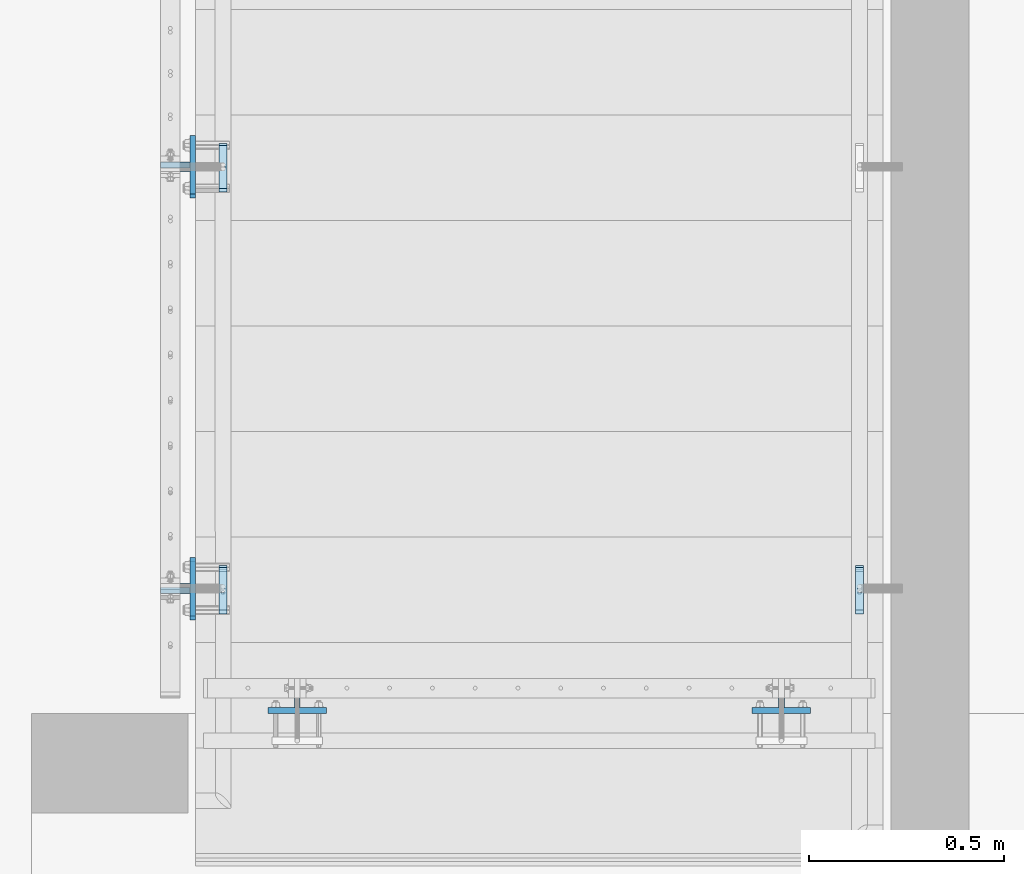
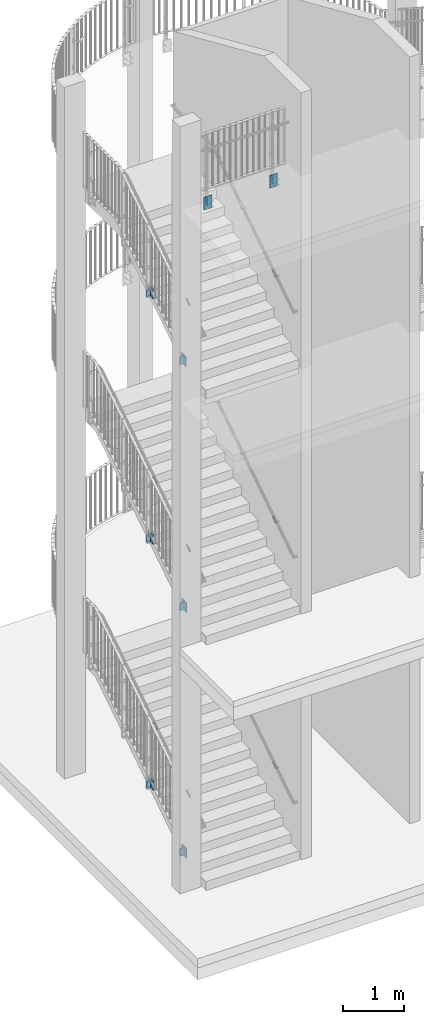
# One storey, part 108 of 296: 24 plates, 56 openings.
"""IFC2X3 building model written with IfcOpenShell, lengths in millimetres."""

from ifc_helpers import new_model, entity, si_unit, converted_unit, frame, frame_2d, origin, origin_with_axes, origin_2d_with_axis, place, context, project, spatial, polyline, circle, outline, extrude, material, layer, layer_set, element, save


model = new_model("IFC2X3")

# Units and contexts
model_context = context("Model", 3, precision=1e-09, world=origin_with_axes())
ifc_project = project(units=[si_unit("LENGTHUNIT", "METRE", prefix="MILLI"), si_unit("AREAUNIT", "SQUARE_METRE"), si_unit("VOLUMEUNIT", "CUBIC_METRE"), converted_unit("PLANEANGLEUNIT", "DEGREE", entity("IfcPlaneAngleMeasure", 0.01745329), si_unit("PLANEANGLEUNIT", "RADIAN"), dimensions=[0, 0, 0, 0, 0, 0, 0])], contexts=[model_context])

# Site, building, storey
site_placement = place(None, origin_with_axes())
site = spatial("IfcSite", under=ifc_project, at=site_placement, Name="TZD-S?d | Treppenhausgel?nder", CompositionType="ELEMENT")
building_placement = place(site_placement, origin_with_axes())
building = spatial("IfcBuilding", under=site, at=building_placement, Name="Struktur 1", CompositionType="ELEMENT")
storey_placement = place(building_placement, origin_with_axes())
storey = spatial("IfcBuildingStorey", under=building, at=storey_placement, Name="Default Storey", CompositionType="ELEMENT", Elevation=0.0)

# Plate, openings
ifc_material = material(Name="S235JR")
ifc_layer_1 = layer(ifc_material, 15.0)
ifc_layer_set_1 = layer_set([ifc_layer_1], Name="S235JR")
plate_1_placement = place(None, frame((1512.501414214, -3722.501, 13400.001), z_axis=(-1.0, 0.0, 0.0), x_axis=(0.0, -1.0, 0.0)))
plate_1 = element("IfcPlate", 1, at=plate_1_placement, inside=storey, material=ifc_layer_set_1, Name="Girder", ObjectType="Girder", context=model_context, shape_type="SweptSolid", body=[
    extrude(outline(polyline([(-37.5, -75.0), (37.5, -75.0), (37.5, 75.0), (-37.5, 75.0), (-37.5, -75.0)])), origin_with_axes(), (0.0, 0.0, -1.0), 15.0),
])
opening_1_placement = place(plate_1_placement, frame((-19.501, 50.0, 0.5), z_axis=(0.0, 0.0, 1.0), x_axis=(1.0, 0.0, 0.0)))
element("IfcOpeningElement", 2, at=opening_1_placement, cuts=plate_1, ObjectType="Opening", context=model_context, shape_type="SweptSolid", body=[
    extrude(circle(Radius=7.001, at=frame_2d((7.001, 0.0), x_axis=(1.0, 0.0))), origin(), (0.0, 0.0, -1.0), 16.0),
])
opening_2_placement = place(plate_1_placement, frame((-19.501, -50.0, 0.5), z_axis=(0.0, 0.0, 1.0), x_axis=(1.0, 0.0, 0.0)))
element("IfcOpeningElement", 3, at=opening_2_placement, cuts=plate_1, ObjectType="Opening", context=model_context, shape_type="SweptSolid", body=[
    extrude(circle(Radius=7.001, at=frame_2d((7.001, 0.0), x_axis=(1.0, 0.0))), origin(), (0.0, 0.0, -1.0), 16.0),
])

plate_2_placement = place(None, frame((1520.001414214, -3775.001, 13400.001), z_axis=(0.0, -1.0, 0.0), x_axis=(1.0, 0.0, 0.0)))
plate_2 = element("IfcPlate", 4, at=plate_2_placement, inside=storey, material=ifc_layer_set_1, Name="Girder", ObjectType="Girder", context=model_context, shape_type="SweptSolid", body=[
    extrude(outline(polyline([(-75.0, -125.0), (75.0, -125.0), (75.0, 125.0), (-75.0, 125.0), (-75.0, -125.0)])), origin_with_axes(), (0.0, 0.0, -1.0), 15.0),
])
opening_3_placement = place(plate_2_placement, frame((47.999, 55.0, 0.5), z_axis=(0.0, 0.0, 1.0), x_axis=(1.0, 0.0, 0.0)))
element("IfcOpeningElement", 5, at=opening_3_placement, cuts=plate_2, ObjectType="Opening", context=model_context, shape_type="SweptSolid", body=[
    extrude(circle(Radius=7.001, at=frame_2d((7.001, 0.0), x_axis=(1.0, 0.0))), origin(), (0.0, 0.0, -1.0), 16.0),
])
opening_4_placement = place(plate_2_placement, frame((-62.001, 55.0, 0.5), z_axis=(0.0, 0.0, 1.0), x_axis=(1.0, 0.0, 0.0)))
element("IfcOpeningElement", 6, at=opening_4_placement, cuts=plate_2, ObjectType="Opening", context=model_context, shape_type="SweptSolid", body=[
    extrude(circle(Radius=7.001, at=frame_2d((7.001, 0.0), x_axis=(1.0, 0.0))), origin(), (0.0, 0.0, -1.0), 16.0),
])
opening_5_placement = place(plate_2_placement, frame((47.999, -55.0, 0.5), z_axis=(0.0, 0.0, 1.0), x_axis=(1.0, 0.0, 0.0)))
element("IfcOpeningElement", 7, at=opening_5_placement, cuts=plate_2, ObjectType="Opening", context=model_context, shape_type="SweptSolid", body=[
    extrude(circle(Radius=7.001, at=frame_2d((7.001, 0.0), x_axis=(1.0, 0.0))), origin(), (0.0, 0.0, -1.0), 16.0),
])
opening_6_placement = place(plate_2_placement, frame((-62.001, -55.0, 0.5), z_axis=(0.0, 0.0, 1.0), x_axis=(1.0, 0.0, 0.0)))
element("IfcOpeningElement", 8, at=opening_6_placement, cuts=plate_2, ObjectType="Opening", context=model_context, shape_type="SweptSolid", body=[
    extrude(circle(Radius=7.001, at=frame_2d((7.001, 0.0), x_axis=(1.0, 0.0))), origin(), (0.0, 0.0, -1.0), 16.0),
])

plate_3_placement = place(None, frame((287.499999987, -3722.501, 13400.001), z_axis=(-1.0, 0.0, 0.0), x_axis=(0.0, -1.0, 0.0)))
plate_3 = element("IfcPlate", 9, at=plate_3_placement, inside=storey, material=ifc_layer_set_1, Name="Girder", ObjectType="Girder", context=model_context, shape_type="SweptSolid", body=[
    extrude(outline(polyline([(-37.5, -75.0), (37.5, -75.0), (37.5, 75.0), (-37.5, 75.0), (-37.5, -75.0)])), origin_with_axes(), (0.0, 0.0, 1.0), 15.0),
])
opening_7_placement = place(plate_3_placement, frame((-12.5, 0.0, -0.5), z_axis=(0.0, 0.0, 1.0), x_axis=(1.0, 0.0, 0.0)))
element("IfcOpeningElement", 10, at=opening_7_placement, cuts=plate_3, ObjectType="Opening", context=model_context, shape_type="SweptSolid", body=[
    extrude(circle(Radius=7.001, at=frame_2d((0.0, 50.0), x_axis=(1.0, 0.0))), origin(), (0.0, 0.0, 1.0), 16.0),
])
opening_8_placement = place(plate_3_placement, frame((-12.5, 0.0, -0.5), z_axis=(0.0, 0.0, 1.0), x_axis=(1.0, 0.0, 0.0)))
element("IfcOpeningElement", 11, at=opening_8_placement, cuts=plate_3, ObjectType="Opening", context=model_context, shape_type="SweptSolid", body=[
    extrude(circle(Radius=7.001, at=frame_2d((0.0, -50.0), x_axis=(1.0, 0.0))), origin(), (0.0, 0.0, 1.0), 16.0),
])

plate_4_placement = place(None, frame((279.999999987, -3775.001, 13400.001), z_axis=(0.0, 1.0, 0.0), x_axis=(-1.0, 0.0, 0.0)))
plate_4 = element("IfcPlate", 12, at=plate_4_placement, inside=storey, material=ifc_layer_set_1, Name="Girder", ObjectType="Girder", context=model_context, shape_type="SweptSolid", body=[
    extrude(outline(polyline([(-75.0, -125.0), (75.0, -125.0), (75.0, 125.0), (-75.0, 125.0), (-75.0, -125.0)])), origin_with_axes(), (0.0, 0.0, 1.0), 15.0),
])
opening_9_placement = place(plate_4_placement, frame((0.0, 0.0, -0.5), z_axis=(0.0, 0.0, 1.0), x_axis=(1.0, 0.0, 0.0)))
element("IfcOpeningElement", 13, at=opening_9_placement, cuts=plate_4, ObjectType="Opening", context=model_context, shape_type="SweptSolid", body=[
    extrude(circle(Radius=7.001, at=frame_2d((55.0, 55.0), x_axis=(1.0, 0.0))), origin(), (0.0, 0.0, 1.0), 16.0),
])
opening_10_placement = place(plate_4_placement, frame((0.0, 0.0, -0.5), z_axis=(0.0, 0.0, 1.0), x_axis=(1.0, 0.0, 0.0)))
element("IfcOpeningElement", 14, at=opening_10_placement, cuts=plate_4, ObjectType="Opening", context=model_context, shape_type="SweptSolid", body=[
    extrude(circle(Radius=7.001, at=frame_2d((-55.0, 55.0), x_axis=(1.0, 0.0))), origin(), (0.0, 0.0, 1.0), 16.0),
])
opening_11_placement = place(plate_4_placement, frame((0.0, 0.0, -0.5), z_axis=(0.0, 0.0, 1.0), x_axis=(1.0, 0.0, 0.0)))
element("IfcOpeningElement", 15, at=opening_11_placement, cuts=plate_4, ObjectType="Opening", context=model_context, shape_type="SweptSolid", body=[
    extrude(circle(Radius=7.001, at=frame_2d((55.0, -55.0), x_axis=(1.0, 0.0))), origin(), (0.0, 0.0, 1.0), 16.0),
])
opening_12_placement = place(plate_4_placement, frame((0.0, 0.0, -0.5), z_axis=(0.0, 0.0, 1.0), x_axis=(1.0, 0.0, 0.0)))
element("IfcOpeningElement", 16, at=opening_12_placement, cuts=plate_4, ObjectType="Opening", context=model_context, shape_type="SweptSolid", body=[
    extrude(circle(Radius=7.001, at=frame_2d((-55.0, -55.0), x_axis=(1.0, 0.0))), origin(), (0.0, 0.0, 1.0), 16.0),
])

# Plate, opening
ifc_layer_2 = layer(ifc_material, 10.0)
ifc_layer_set_2 = layer_set([ifc_layer_2], Name="S235JR")
plate_5_placement = place(None, frame((1720.0, -3460.0, 6382.772283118), z_axis=(0.0, 0.542183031, -0.840260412), x_axis=(0.0, -0.840260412, -0.542183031)))
plate_5 = element("IfcPlate", 17, at=plate_5_placement, inside=storey, material=ifc_layer_set_2, Name="Girder", ObjectType="Girder", context=model_context, shape_type="SweptSolid", body=[
    extrude(outline(polyline([(-65.0, -10.0), (65.0, -10.0), (65.0, 10.0), (-65.0, 10.0), (-65.0, -10.0)])), origin_with_axes(), (0.0, 0.0, -1.0), 10.0),
])
opening_13_placement = place(plate_5_placement, frame((-8e-09, -5.000999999, 0.5), z_axis=(0.0, 0.0, 1.0), x_axis=(1.0, 0.0, 0.0)))
element("IfcOpeningElement", 18, at=opening_13_placement, cuts=plate_5, ObjectType="Opening", context=model_context, shape_type="SweptSolid", body=[
    extrude(circle(Radius=5.001, at=frame_2d((0.0, 5.001), x_axis=(1.0, 0.0))), origin(), (0.0, 0.0, -1.0), 11.0),
])

plate_6_placement = place(None, frame((1720.0, -3460.0, 1482.538848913), z_axis=(0.0, 0.544258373, -0.83891765), x_axis=(0.0, -0.83891765, -0.544258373)))
plate_6 = element("IfcPlate", 19, at=plate_6_placement, inside=storey, material=ifc_layer_set_2, Name="Girder", ObjectType="Girder", context=model_context, shape_type="SweptSolid", body=[
    extrude(outline(polyline([(-65.0, -10.0), (65.0, -10.0), (65.0, 10.0), (-65.0, 10.0), (-65.0, -10.0)])), origin_with_axes(), (0.0, 0.0, -1.0), 10.0),
])
opening_14_placement = place(plate_6_placement, frame((-7e-09, -5.001, 0.5), z_axis=(0.0, 0.0, 1.0), x_axis=(1.0, 0.0, 0.0)))
element("IfcOpeningElement", 20, at=opening_14_placement, cuts=plate_6, ObjectType="Opening", context=model_context, shape_type="SweptSolid", body=[
    extrude(circle(Radius=5.001, at=frame_2d((0.0, 5.001), x_axis=(1.0, 0.0))), origin(), (0.0, 0.0, -1.0), 11.0),
])

plate_7_placement = place(None, frame((1720.0, -3450.0, 11281.16675341), z_axis=(0.0, 0.543478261, -0.839423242), x_axis=(0.0, -0.839423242, -0.543478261)))
plate_7 = element("IfcPlate", 21, at=plate_7_placement, inside=storey, material=ifc_layer_set_2, Name="Girder", ObjectType="Girder", context=model_context, shape_type="SweptSolid", body=[
    extrude(outline(polyline([(-65.0, -10.0), (65.0, -10.0), (65.0, 10.0), (-65.0, 10.0), (-65.0, -10.0)])), origin_with_axes(), (0.0, 0.0, -1.0), 10.0),
])
opening_15_placement = place(plate_7_placement, frame((-1.8e-08, -5.000999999, 0.5), z_axis=(0.0, 0.0, 1.0), x_axis=(1.0, 0.0, 0.0)))
element("IfcOpeningElement", 22, at=opening_15_placement, cuts=plate_7, ObjectType="Opening", context=model_context, shape_type="SweptSolid", body=[
    extrude(circle(Radius=5.001, at=frame_2d((0.0, 5.001), x_axis=(1.0, 0.0))), origin(), (0.0, 0.0, -1.0), 11.0),
])

# Plate, openings
plate_8_placement = place(None, frame((20.0, -2370.0, 10864.999), z_axis=(-1.0, 0.0, 0.0), x_axis=(0.0, -1.0, 0.0)))
plate_8 = element("IfcPlate", 23, at=plate_8_placement, inside=storey, material=ifc_layer_set_1, Name="Girder", ObjectType="Girder", context=model_context, shape_type="SweptSolid", body=[
    extrude(outline(polyline([(-75.0, -100.0), (75.0, -100.0), (75.0, 100.0), (-75.0, 100.0), (-75.0, -100.0)])), origin_with_axes(), (0.0, 0.0, 1.0), 15.0),
])
opening_16_placement = place(plate_8_placement, frame((0.0, 0.0, -0.5), z_axis=(0.0, 0.0, 1.0), x_axis=(1.0, 0.0, 0.0)))
element("IfcOpeningElement", 24, at=opening_16_placement, cuts=plate_8, ObjectType="Opening", context=model_context, shape_type="SweptSolid", body=[
    extrude(circle(Radius=7.001, at=frame_2d((55.0, 55.0), x_axis=(1.0, 0.0))), origin(), (0.0, 0.0, 1.0), 16.0),
])
opening_17_placement = place(plate_8_placement, frame((0.0, 0.0, -0.5), z_axis=(0.0, 0.0, 1.0), x_axis=(1.0, 0.0, 0.0)))
element("IfcOpeningElement", 25, at=opening_17_placement, cuts=plate_8, ObjectType="Opening", context=model_context, shape_type="SweptSolid", body=[
    extrude(circle(Radius=7.001, at=frame_2d((-55.0, 55.0), x_axis=(1.0, 0.0))), origin(), (0.0, 0.0, 1.0), 16.0),
])
opening_18_placement = place(plate_8_placement, frame((0.0, 0.0, -0.5), z_axis=(0.0, 0.0, 1.0), x_axis=(1.0, 0.0, 0.0)))
element("IfcOpeningElement", 26, at=opening_18_placement, cuts=plate_8, ObjectType="Opening", context=model_context, shape_type="SweptSolid", body=[
    extrude(circle(Radius=7.001, at=frame_2d((55.0, -55.0), x_axis=(1.0, 0.0))), origin(), (0.0, 0.0, 1.0), 16.0),
])
opening_19_placement = place(plate_8_placement, frame((0.0, 0.0, -0.5), z_axis=(0.0, 0.0, 1.0), x_axis=(1.0, 0.0, 0.0)))
element("IfcOpeningElement", 27, at=opening_19_placement, cuts=plate_8, ObjectType="Opening", context=model_context, shape_type="SweptSolid", body=[
    extrude(circle(Radius=7.001, at=frame_2d((-55.0, -55.0), x_axis=(1.0, 0.0))), origin(), (0.0, 0.0, 1.0), 16.0),
])

plate_9_placement = place(None, frame((-32.5, -2362.5, 10864.999), z_axis=(0.0, -1.0, 0.0), x_axis=(1.0, 0.0, 0.0)))
plate_9 = element("IfcPlate", 28, at=plate_9_placement, inside=storey, material=ifc_layer_set_1, Name="Girder", ObjectType="Girder", context=model_context, shape_type="SweptSolid", body=[
    extrude(outline(polyline([(-37.5, -75.0), (37.5, -75.0), (37.5, 75.0), (-37.5, 75.0), (-37.5, -75.0)])), origin_with_axes(), (0.0, 0.0, 1.0), 15.0),
])
opening_20_placement = place(plate_9_placement, frame((-12.5, 0.0, -0.5), z_axis=(0.0, 0.0, 1.0), x_axis=(1.0, 0.0, 0.0)))
element("IfcOpeningElement", 29, at=opening_20_placement, cuts=plate_9, ObjectType="Opening", context=model_context, shape_type="SweptSolid", body=[
    extrude(circle(Radius=7.001, at=frame_2d((0.0, 50.0), x_axis=(1.0, 0.0))), origin(), (0.0, 0.0, 1.0), 16.0),
])
opening_21_placement = place(plate_9_placement, frame((-12.5, 0.0, -0.5), z_axis=(0.0, 0.0, 1.0), x_axis=(1.0, 0.0, 0.0)))
element("IfcOpeningElement", 30, at=opening_21_placement, cuts=plate_9, ObjectType="Opening", context=model_context, shape_type="SweptSolid", body=[
    extrude(circle(Radius=7.001, at=frame_2d((0.0, -50.0), x_axis=(1.0, 0.0))), origin(), (0.0, 0.0, 1.0), 16.0),
])

plate_10_placement = place(None, frame((20.0, -3450.0, 10164.999), z_axis=(-1.0, 0.0, 0.0), x_axis=(0.0, -1.0, 0.0)))
plate_10 = element("IfcPlate", 31, at=plate_10_placement, inside=storey, material=ifc_layer_set_1, Name="Girder", ObjectType="Girder", context=model_context, shape_type="SweptSolid", body=[
    extrude(outline(polyline([(-75.0, -100.0), (75.0, -100.0), (75.0, 100.0), (-75.0, 100.0), (-75.0, -100.0)])), origin_with_axes(), (0.0, 0.0, 1.0), 15.0),
])
opening_22_placement = place(plate_10_placement, frame((0.0, 0.0, -0.5), z_axis=(0.0, 0.0, 1.0), x_axis=(1.0, 0.0, 0.0)))
element("IfcOpeningElement", 32, at=opening_22_placement, cuts=plate_10, ObjectType="Opening", context=model_context, shape_type="SweptSolid", body=[
    extrude(circle(Radius=7.001, at=frame_2d((55.0, 55.0), x_axis=(1.0, 0.0))), origin(), (0.0, 0.0, 1.0), 16.0),
])
opening_23_placement = place(plate_10_placement, frame((0.0, 0.0, -0.5), z_axis=(0.0, 0.0, 1.0), x_axis=(1.0, 0.0, 0.0)))
element("IfcOpeningElement", 33, at=opening_23_placement, cuts=plate_10, ObjectType="Opening", context=model_context, shape_type="SweptSolid", body=[
    extrude(circle(Radius=7.001, at=frame_2d((-55.0, 55.0), x_axis=(1.0, 0.0))), origin(), (0.0, 0.0, 1.0), 16.0),
])
opening_24_placement = place(plate_10_placement, frame((0.0, 0.0, -0.5), z_axis=(0.0, 0.0, 1.0), x_axis=(1.0, 0.0, 0.0)))
element("IfcOpeningElement", 34, at=opening_24_placement, cuts=plate_10, ObjectType="Opening", context=model_context, shape_type="SweptSolid", body=[
    extrude(circle(Radius=7.001, at=frame_2d((55.0, -55.0), x_axis=(1.0, 0.0))), origin(), (0.0, 0.0, 1.0), 16.0),
])
opening_25_placement = place(plate_10_placement, frame((0.0, 0.0, -0.5), z_axis=(0.0, 0.0, 1.0), x_axis=(1.0, 0.0, 0.0)))
element("IfcOpeningElement", 35, at=opening_25_placement, cuts=plate_10, ObjectType="Opening", context=model_context, shape_type="SweptSolid", body=[
    extrude(circle(Radius=7.001, at=frame_2d((-55.0, -55.0), x_axis=(1.0, 0.0))), origin(), (0.0, 0.0, 1.0), 16.0),
])

plate_11_placement = place(None, frame((-32.5, -3442.5, 10164.999), z_axis=(0.0, -1.0, 0.0), x_axis=(1.0, 0.0, 0.0)))
plate_11 = element("IfcPlate", 36, at=plate_11_placement, inside=storey, material=ifc_layer_set_1, Name="Girder", ObjectType="Girder", context=model_context, shape_type="SweptSolid", body=[
    extrude(outline(polyline([(-37.5, -75.0), (37.5, -75.0), (37.5, 75.0), (-37.5, 75.0), (-37.5, -75.0)])), origin_with_axes(), (0.0, 0.0, 1.0), 15.0),
])
opening_26_placement = place(plate_11_placement, frame((-12.5, 0.0, -0.5), z_axis=(0.0, 0.0, 1.0), x_axis=(1.0, 0.0, 0.0)))
element("IfcOpeningElement", 37, at=opening_26_placement, cuts=plate_11, ObjectType="Opening", context=model_context, shape_type="SweptSolid", body=[
    extrude(circle(Radius=7.001, at=frame_2d((0.0, 50.0), x_axis=(1.0, 0.0))), origin(), (0.0, 0.0, 1.0), 16.0),
])
opening_27_placement = place(plate_11_placement, frame((-12.5, 0.0, -0.5), z_axis=(0.0, 0.0, 1.0), x_axis=(1.0, 0.0, 0.0)))
element("IfcOpeningElement", 38, at=opening_27_placement, cuts=plate_11, ObjectType="Opening", context=model_context, shape_type="SweptSolid", body=[
    extrude(circle(Radius=7.001, at=frame_2d((0.0, -50.0), x_axis=(1.0, 0.0))), origin(), (0.0, 0.0, 1.0), 16.0),
])

plate_12_placement = place(None, frame((20.0, -2370.0, 5964.999), z_axis=(-1.0, 0.0, 0.0), x_axis=(0.0, -1.0, 0.0)))
plate_12 = element("IfcPlate", 39, at=plate_12_placement, inside=storey, material=ifc_layer_set_1, Name="Girder", ObjectType="Girder", context=model_context, shape_type="SweptSolid", body=[
    extrude(outline(polyline([(-75.0, -100.0), (75.0, -100.0), (75.0, 100.0), (-75.0, 100.0), (-75.0, -100.0)])), origin_with_axes(), (0.0, 0.0, 1.0), 15.0),
])
opening_28_placement = place(plate_12_placement, frame((0.0, 0.0, -0.5), z_axis=(0.0, 0.0, 1.0), x_axis=(1.0, 0.0, 0.0)))
element("IfcOpeningElement", 40, at=opening_28_placement, cuts=plate_12, ObjectType="Opening", context=model_context, shape_type="SweptSolid", body=[
    extrude(circle(Radius=7.001, at=frame_2d((55.0, 55.0), x_axis=(1.0, 0.0))), origin(), (0.0, 0.0, 1.0), 16.0),
])
opening_29_placement = place(plate_12_placement, frame((0.0, 0.0, -0.5), z_axis=(0.0, 0.0, 1.0), x_axis=(1.0, 0.0, 0.0)))
element("IfcOpeningElement", 41, at=opening_29_placement, cuts=plate_12, ObjectType="Opening", context=model_context, shape_type="SweptSolid", body=[
    extrude(circle(Radius=7.001, at=frame_2d((-55.0, 55.0), x_axis=(1.0, 0.0))), origin(), (0.0, 0.0, 1.0), 16.0),
])
opening_30_placement = place(plate_12_placement, frame((0.0, 0.0, -0.5), z_axis=(0.0, 0.0, 1.0), x_axis=(1.0, 0.0, 0.0)))
element("IfcOpeningElement", 42, at=opening_30_placement, cuts=plate_12, ObjectType="Opening", context=model_context, shape_type="SweptSolid", body=[
    extrude(circle(Radius=7.001, at=frame_2d((55.0, -55.0), x_axis=(1.0, 0.0))), origin(), (0.0, 0.0, 1.0), 16.0),
])
opening_31_placement = place(plate_12_placement, frame((0.0, 0.0, -0.5), z_axis=(0.0, 0.0, 1.0), x_axis=(1.0, 0.0, 0.0)))
element("IfcOpeningElement", 43, at=opening_31_placement, cuts=plate_12, ObjectType="Opening", context=model_context, shape_type="SweptSolid", body=[
    extrude(circle(Radius=7.001, at=frame_2d((-55.0, -55.0), x_axis=(1.0, 0.0))), origin(), (0.0, 0.0, 1.0), 16.0),
])

plate_13_placement = place(None, frame((-32.5, -2362.5, 5964.999), z_axis=(0.0, -1.0, 0.0), x_axis=(1.0, 0.0, 0.0)))
plate_13 = element("IfcPlate", 44, at=plate_13_placement, inside=storey, material=ifc_layer_set_1, Name="Girder", ObjectType="Girder", context=model_context, shape_type="SweptSolid", body=[
    extrude(outline(polyline([(-37.5, -75.0), (37.5, -75.0), (37.5, 75.0), (-37.5, 75.0), (-37.5, -75.0)])), origin_with_axes(), (0.0, 0.0, 1.0), 15.0),
])
opening_32_placement = place(plate_13_placement, frame((-12.5, 0.0, -0.5), z_axis=(0.0, 0.0, 1.0), x_axis=(1.0, 0.0, 0.0)))
element("IfcOpeningElement", 45, at=opening_32_placement, cuts=plate_13, ObjectType="Opening", context=model_context, shape_type="SweptSolid", body=[
    extrude(circle(Radius=7.001, at=frame_2d((0.0, 50.0), x_axis=(1.0, 0.0))), origin(), (0.0, 0.0, 1.0), 16.0),
])
opening_33_placement = place(plate_13_placement, frame((-12.5, 0.0, -0.5), z_axis=(0.0, 0.0, 1.0), x_axis=(1.0, 0.0, 0.0)))
element("IfcOpeningElement", 46, at=opening_33_placement, cuts=plate_13, ObjectType="Opening", context=model_context, shape_type="SweptSolid", body=[
    extrude(circle(Radius=7.001, at=frame_2d((0.0, -50.0), x_axis=(1.0, 0.0))), origin(), (0.0, 0.0, 1.0), 16.0),
])

plate_14_placement = place(None, frame((20.0, -2380.0, 1064.999), z_axis=(-1.0, 0.0, 0.0), x_axis=(0.0, -1.0, 0.0)))
plate_14 = element("IfcPlate", 47, at=plate_14_placement, inside=storey, material=ifc_layer_set_1, Name="Girder", ObjectType="Girder", context=model_context, shape_type="SweptSolid", body=[
    extrude(outline(polyline([(-75.0, -100.0), (75.0, -100.0), (75.0, 100.0), (-75.0, 100.0), (-75.0, -100.0)])), origin_with_axes(), (0.0, 0.0, 1.0), 15.0),
])
opening_34_placement = place(plate_14_placement, frame((0.0, 0.0, -0.5), z_axis=(0.0, 0.0, 1.0), x_axis=(1.0, 0.0, 0.0)))
element("IfcOpeningElement", 48, at=opening_34_placement, cuts=plate_14, ObjectType="Opening", context=model_context, shape_type="SweptSolid", body=[
    extrude(circle(Radius=7.001, at=frame_2d((55.0, 55.0), x_axis=(1.0, 0.0))), origin(), (0.0, 0.0, 1.0), 16.0),
])
opening_35_placement = place(plate_14_placement, frame((0.0, 0.0, -0.5), z_axis=(0.0, 0.0, 1.0), x_axis=(1.0, 0.0, 0.0)))
element("IfcOpeningElement", 49, at=opening_35_placement, cuts=plate_14, ObjectType="Opening", context=model_context, shape_type="SweptSolid", body=[
    extrude(circle(Radius=7.001, at=frame_2d((-55.0, 55.0), x_axis=(1.0, 0.0))), origin(), (0.0, 0.0, 1.0), 16.0),
])
opening_36_placement = place(plate_14_placement, frame((0.0, 0.0, -0.5), z_axis=(0.0, 0.0, 1.0), x_axis=(1.0, 0.0, 0.0)))
element("IfcOpeningElement", 50, at=opening_36_placement, cuts=plate_14, ObjectType="Opening", context=model_context, shape_type="SweptSolid", body=[
    extrude(circle(Radius=7.001, at=frame_2d((55.0, -55.0), x_axis=(1.0, 0.0))), origin(), (0.0, 0.0, 1.0), 16.0),
])
opening_37_placement = place(plate_14_placement, frame((0.0, 0.0, -0.5), z_axis=(0.0, 0.0, 1.0), x_axis=(1.0, 0.0, 0.0)))
element("IfcOpeningElement", 51, at=opening_37_placement, cuts=plate_14, ObjectType="Opening", context=model_context, shape_type="SweptSolid", body=[
    extrude(circle(Radius=7.001, at=frame_2d((-55.0, -55.0), x_axis=(1.0, 0.0))), origin(), (0.0, 0.0, 1.0), 16.0),
])

plate_15_placement = place(None, frame((-32.5, -2372.5, 1064.999), z_axis=(0.0, -1.0, 0.0), x_axis=(1.0, 0.0, 0.0)))
plate_15 = element("IfcPlate", 52, at=plate_15_placement, inside=storey, material=ifc_layer_set_1, Name="Girder", ObjectType="Girder", context=model_context, shape_type="SweptSolid", body=[
    extrude(outline(polyline([(-37.5, -75.0), (37.5, -75.0), (37.5, 75.0), (-37.5, 75.0), (-37.5, -75.0)])), origin_with_axes(), (0.0, 0.0, 1.0), 15.0),
])
opening_38_placement = place(plate_15_placement, frame((-12.5, 0.0, -0.5), z_axis=(0.0, 0.0, 1.0), x_axis=(1.0, 0.0, 0.0)))
element("IfcOpeningElement", 53, at=opening_38_placement, cuts=plate_15, ObjectType="Opening", context=model_context, shape_type="SweptSolid", body=[
    extrude(circle(Radius=7.001, at=frame_2d((0.0, 50.0), x_axis=(1.0, 0.0))), origin(), (0.0, 0.0, 1.0), 16.0),
])
opening_39_placement = place(plate_15_placement, frame((-12.5, 0.0, -0.5), z_axis=(0.0, 0.0, 1.0), x_axis=(1.0, 0.0, 0.0)))
element("IfcOpeningElement", 54, at=opening_39_placement, cuts=plate_15, ObjectType="Opening", context=model_context, shape_type="SweptSolid", body=[
    extrude(circle(Radius=7.001, at=frame_2d((0.0, -50.0), x_axis=(1.0, 0.0))), origin(), (0.0, 0.0, 1.0), 16.0),
])

plate_16_placement = place(None, frame((20.0, -3460.0, 5265.001), z_axis=(-1.0, 0.0, 0.0), x_axis=(0.0, -1.0, 0.0)))
plate_16 = element("IfcPlate", 55, at=plate_16_placement, inside=storey, material=ifc_layer_set_1, Name="Girder", ObjectType="Girder", context=model_context, shape_type="SweptSolid", body=[
    extrude(outline(polyline([(-75.0, -100.0), (75.0, -100.0), (75.0, 100.0), (-75.0, 100.0), (-75.0, -100.0)])), origin_with_axes(), (0.0, 0.0, 1.0), 15.0),
])
opening_40_placement = place(plate_16_placement, frame((0.0, 0.0, -0.5), z_axis=(0.0, 0.0, 1.0), x_axis=(1.0, 0.0, 0.0)))
element("IfcOpeningElement", 56, at=opening_40_placement, cuts=plate_16, ObjectType="Opening", context=model_context, shape_type="SweptSolid", body=[
    extrude(circle(Radius=7.001, at=frame_2d((55.0, 55.0), x_axis=(1.0, 0.0))), origin(), (0.0, 0.0, 1.0), 16.0),
])
opening_41_placement = place(plate_16_placement, frame((0.0, 0.0, -0.5), z_axis=(0.0, 0.0, 1.0), x_axis=(1.0, 0.0, 0.0)))
element("IfcOpeningElement", 57, at=opening_41_placement, cuts=plate_16, ObjectType="Opening", context=model_context, shape_type="SweptSolid", body=[
    extrude(circle(Radius=7.001, at=frame_2d((-55.0, 55.0), x_axis=(1.0, 0.0))), origin(), (0.0, 0.0, 1.0), 16.0),
])
opening_42_placement = place(plate_16_placement, frame((0.0, 0.0, -0.5), z_axis=(0.0, 0.0, 1.0), x_axis=(1.0, 0.0, 0.0)))
element("IfcOpeningElement", 58, at=opening_42_placement, cuts=plate_16, ObjectType="Opening", context=model_context, shape_type="SweptSolid", body=[
    extrude(circle(Radius=7.001, at=frame_2d((55.0, -55.0), x_axis=(1.0, 0.0))), origin(), (0.0, 0.0, 1.0), 16.0),
])
opening_43_placement = place(plate_16_placement, frame((0.0, 0.0, -0.5), z_axis=(0.0, 0.0, 1.0), x_axis=(1.0, 0.0, 0.0)))
element("IfcOpeningElement", 59, at=opening_43_placement, cuts=plate_16, ObjectType="Opening", context=model_context, shape_type="SweptSolid", body=[
    extrude(circle(Radius=7.001, at=frame_2d((-55.0, -55.0), x_axis=(1.0, 0.0))), origin(), (0.0, 0.0, 1.0), 16.0),
])

plate_17_placement = place(None, frame((-32.5, -3452.5, 5265.001), z_axis=(0.0, -1.0, 0.0), x_axis=(1.0, 0.0, 0.0)))
plate_17 = element("IfcPlate", 60, at=plate_17_placement, inside=storey, material=ifc_layer_set_1, Name="Girder", ObjectType="Girder", context=model_context, shape_type="SweptSolid", body=[
    extrude(outline(polyline([(-37.5, -75.0), (37.5, -75.0), (37.5, 75.0), (-37.5, 75.0), (-37.5, -75.0)])), origin_with_axes(), (0.0, 0.0, 1.0), 15.0),
])
opening_44_placement = place(plate_17_placement, frame((-12.5, 0.0, -0.5), z_axis=(0.0, 0.0, 1.0), x_axis=(1.0, 0.0, 0.0)))
element("IfcOpeningElement", 61, at=opening_44_placement, cuts=plate_17, ObjectType="Opening", context=model_context, shape_type="SweptSolid", body=[
    extrude(circle(Radius=7.001, at=frame_2d((0.0, 50.0), x_axis=(1.0, 0.0))), origin(), (0.0, 0.0, 1.0), 16.0),
])
opening_45_placement = place(plate_17_placement, frame((-12.5, 0.0, -0.5), z_axis=(0.0, 0.0, 1.0), x_axis=(1.0, 0.0, 0.0)))
element("IfcOpeningElement", 62, at=opening_45_placement, cuts=plate_17, ObjectType="Opening", context=model_context, shape_type="SweptSolid", body=[
    extrude(circle(Radius=7.001, at=frame_2d((0.0, -50.0), x_axis=(1.0, 0.0))), origin(), (0.0, 0.0, 1.0), 16.0),
])

plate_18_placement = place(None, frame((20.0, -3460.0, 365.001), z_axis=(-1.0, 0.0, 0.0), x_axis=(0.0, -1.0, 0.0)))
plate_18 = element("IfcPlate", 63, at=plate_18_placement, inside=storey, material=ifc_layer_set_1, Name="Girder", ObjectType="Girder", context=model_context, shape_type="SweptSolid", body=[
    extrude(outline(polyline([(-75.0, -100.0), (75.0, -100.0), (75.0, 100.0), (-75.0, 100.0), (-75.0, -100.0)])), origin_with_axes(), (0.0, 0.0, 1.0), 15.0),
])
opening_46_placement = place(plate_18_placement, frame((0.0, 0.0, -0.5), z_axis=(0.0, 0.0, 1.0), x_axis=(1.0, 0.0, 0.0)))
element("IfcOpeningElement", 64, at=opening_46_placement, cuts=plate_18, ObjectType="Opening", context=model_context, shape_type="SweptSolid", body=[
    extrude(circle(Radius=7.001, at=frame_2d((55.0, 55.0), x_axis=(1.0, 0.0))), origin(), (0.0, 0.0, 1.0), 16.0),
])
opening_47_placement = place(plate_18_placement, frame((0.0, 0.0, -0.5), z_axis=(0.0, 0.0, 1.0), x_axis=(1.0, 0.0, 0.0)))
element("IfcOpeningElement", 65, at=opening_47_placement, cuts=plate_18, ObjectType="Opening", context=model_context, shape_type="SweptSolid", body=[
    extrude(circle(Radius=7.001, at=frame_2d((-55.0, 55.0), x_axis=(1.0, 0.0))), origin(), (0.0, 0.0, 1.0), 16.0),
])
opening_48_placement = place(plate_18_placement, frame((0.0, 0.0, -0.5), z_axis=(0.0, 0.0, 1.0), x_axis=(1.0, 0.0, 0.0)))
element("IfcOpeningElement", 66, at=opening_48_placement, cuts=plate_18, ObjectType="Opening", context=model_context, shape_type="SweptSolid", body=[
    extrude(circle(Radius=7.001, at=frame_2d((55.0, -55.0), x_axis=(1.0, 0.0))), origin(), (0.0, 0.0, 1.0), 16.0),
])
opening_49_placement = place(plate_18_placement, frame((0.0, 0.0, -0.5), z_axis=(0.0, 0.0, 1.0), x_axis=(1.0, 0.0, 0.0)))
element("IfcOpeningElement", 67, at=opening_49_placement, cuts=plate_18, ObjectType="Opening", context=model_context, shape_type="SweptSolid", body=[
    extrude(circle(Radius=7.001, at=frame_2d((-55.0, -55.0), x_axis=(1.0, 0.0))), origin(), (0.0, 0.0, 1.0), 16.0),
])

plate_19_placement = place(None, frame((-32.5, -3452.5, 365.001), z_axis=(0.0, -1.0, 0.0), x_axis=(1.0, 0.0, 0.0)))
plate_19 = element("IfcPlate", 68, at=plate_19_placement, inside=storey, material=ifc_layer_set_1, Name="Girder", ObjectType="Girder", context=model_context, shape_type="SweptSolid", body=[
    extrude(outline(polyline([(-37.5, -75.0), (37.5, -75.0), (37.5, 75.0), (-37.5, 75.0), (-37.5, -75.0)])), origin_with_axes(), (0.0, 0.0, 1.0), 15.0),
])
opening_50_placement = place(plate_19_placement, frame((-12.5, 0.0, -0.5), z_axis=(0.0, 0.0, 1.0), x_axis=(1.0, 0.0, 0.0)))
element("IfcOpeningElement", 69, at=opening_50_placement, cuts=plate_19, ObjectType="Opening", context=model_context, shape_type="SweptSolid", body=[
    extrude(circle(Radius=7.001, at=frame_2d((0.0, 50.0), x_axis=(1.0, 0.0))), origin(), (0.0, 0.0, 1.0), 16.0),
])
opening_51_placement = place(plate_19_placement, frame((-12.5, 0.0, -0.5), z_axis=(0.0, 0.0, 1.0), x_axis=(1.0, 0.0, 0.0)))
element("IfcOpeningElement", 70, at=opening_51_placement, cuts=plate_19, ObjectType="Opening", context=model_context, shape_type="SweptSolid", body=[
    extrude(circle(Radius=7.001, at=frame_2d((0.0, -50.0), x_axis=(1.0, 0.0))), origin(), (0.0, 0.0, 1.0), 16.0),
])

# Plate, opening
plate_20_placement = place(None, frame((90.0, -2380.0, 2183.202427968), z_axis=(0.0, -0.544258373, 0.83891765), x_axis=(0.0, -0.83891765, -0.544258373)))
plate_20 = element("IfcPlate", 71, at=plate_20_placement, inside=storey, material=ifc_layer_set_2, Name="Girder", ObjectType="Girder", context=model_context, shape_type="SweptSolid", body=[
    extrude(outline(polyline([(-65.0, -10.0), (65.0, -10.0), (65.0, 10.0), (-65.0, 10.0), (-65.0, -10.0)])), origin_with_axes(), (0.0, 0.0, 1.0), 10.0),
])
opening_52_placement = place(plate_20_placement, frame((1e-09, 0.0, -0.5), z_axis=(0.0, 0.0, 1.0), x_axis=(0.0, 1.0, 0.0)))
element("IfcOpeningElement", 72, at=opening_52_placement, cuts=plate_20, ObjectType="Opening", context=model_context, shape_type="SweptSolid", body=[
    extrude(circle(Radius=5.001, at=origin_2d_with_axis()), origin(), (0.0, 0.0, 1.0), 11.0),
])

plate_21_placement = place(None, frame((90.0, -3460.0, 1482.538848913), z_axis=(0.0, -0.544258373, 0.83891765), x_axis=(0.0, -0.83891765, -0.544258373)))
plate_21 = element("IfcPlate", 73, at=plate_21_placement, inside=storey, material=ifc_layer_set_2, Name="Girder", ObjectType="Girder", context=model_context, shape_type="SweptSolid", body=[
    extrude(outline(polyline([(-65.0, -10.0), (65.0, -10.0), (65.0, 10.0), (-65.0, 10.0), (-65.0, -10.0)])), origin_with_axes(), (0.0, 0.0, 1.0), 10.0),
])
opening_53_placement = place(plate_21_placement, frame((-7e-09, 0.0, -0.5), z_axis=(0.0, 0.0, 1.0), x_axis=(0.0, 1.0, 0.0)))
element("IfcOpeningElement", 74, at=opening_53_placement, cuts=plate_21, ObjectType="Opening", context=model_context, shape_type="SweptSolid", body=[
    extrude(circle(Radius=5.001, at=origin_2d_with_axis()), origin(), (0.0, 0.0, 1.0), 11.0),
])

plate_22_placement = place(None, frame((90.0, -2370.0, 7086.10126979), z_axis=(0.0, -0.542183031, 0.840260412), x_axis=(0.0, -0.840260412, -0.542183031)))
plate_22 = element("IfcPlate", 75, at=plate_22_placement, inside=storey, material=ifc_layer_set_2, Name="Girder", ObjectType="Girder", context=model_context, shape_type="SweptSolid", body=[
    extrude(outline(polyline([(-65.0, -10.0), (65.0, -10.0), (65.0, 10.0), (-65.0, 10.0), (-65.0, -10.0)])), origin_with_axes(), (0.0, 0.0, 1.0), 10.0),
])
opening_54_placement = place(plate_22_placement, frame((1.5e-08, -1e-09, -0.499999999), z_axis=(0.0, 0.0, 1.0), x_axis=(0.0, 1.0, 0.0)))
element("IfcOpeningElement", 76, at=opening_54_placement, cuts=plate_22, ObjectType="Opening", context=model_context, shape_type="SweptSolid", body=[
    extrude(circle(Radius=5.001, at=origin_2d_with_axis()), origin(), (0.0, 0.0, 1.0), 11.0),
])

plate_23_placement = place(None, frame((90.0, -3460.0, 6382.772283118), z_axis=(0.0, -0.542183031, 0.840260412), x_axis=(0.0, -0.840260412, -0.542183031)))
plate_23 = element("IfcPlate", 77, at=plate_23_placement, inside=storey, material=ifc_layer_set_2, Name="Girder", ObjectType="Girder", context=model_context, shape_type="SweptSolid", body=[
    extrude(outline(polyline([(-65.0, -10.0), (65.0, -10.0), (65.0, 10.0), (-65.0, 10.0), (-65.0, -10.0)])), origin_with_axes(), (0.0, 0.0, 1.0), 10.0),
])
opening_55_placement = place(plate_23_placement, frame((-8e-09, 1e-09, -0.5), z_axis=(0.0, 0.0, 1.0), x_axis=(0.0, 1.0, 0.0)))
element("IfcOpeningElement", 78, at=opening_55_placement, cuts=plate_23, ObjectType="Opening", context=model_context, shape_type="SweptSolid", body=[
    extrude(circle(Radius=5.001, at=origin_2d_with_axis()), origin(), (0.0, 0.0, 1.0), 11.0),
])

plate_24_placement = place(None, frame((90.0, -3450.0, 11281.16675341), z_axis=(0.0, -0.543478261, 0.839423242), x_axis=(0.0, -0.839423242, -0.543478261)))
plate_24 = element("IfcPlate", 79, at=plate_24_placement, inside=storey, material=ifc_layer_set_2, Name="Girder", ObjectType="Girder", context=model_context, shape_type="SweptSolid", body=[
    extrude(outline(polyline([(-65.0, -10.0), (65.0, -10.0), (65.0, 10.0), (-65.0, 10.0), (-65.0, -10.0)])), origin_with_axes(), (0.0, 0.0, 1.0), 10.0),
])
opening_56_placement = place(plate_24_placement, frame((-1.8e-08, 1e-09, -0.5), z_axis=(0.0, 0.0, 1.0), x_axis=(0.0, 1.0, 0.0)))
element("IfcOpeningElement", 80, at=opening_56_placement, cuts=plate_24, ObjectType="Opening", context=model_context, shape_type="SweptSolid", body=[
    extrude(circle(Radius=5.001, at=origin_2d_with_axis()), origin(), (0.0, 0.0, 1.0), 11.0),
])

save(model, "model.ifc")
